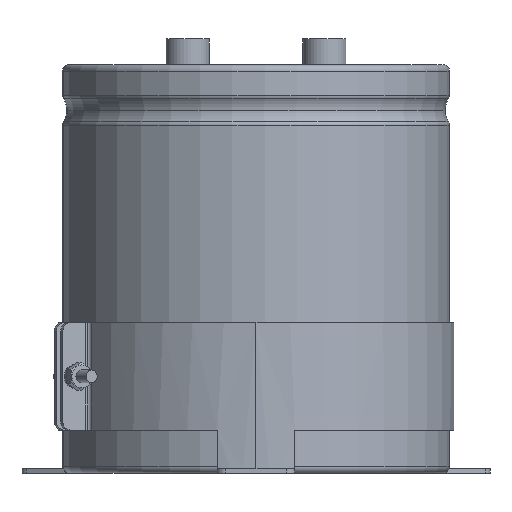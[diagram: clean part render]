
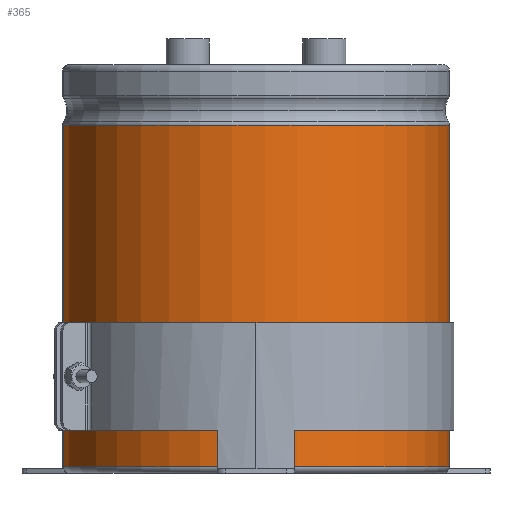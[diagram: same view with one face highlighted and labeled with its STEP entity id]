
A CAD part, left-side view. The second image highlights one B-rep face of the part: STEP entity #365.
In plain terms, the highlighted cylindrical face has radius 45 mm (diameter 90 mm), a partial arc.
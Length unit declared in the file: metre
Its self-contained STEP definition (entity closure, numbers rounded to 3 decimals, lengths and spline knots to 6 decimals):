
#365=ADVANCED_FACE('0:237',(#597),#598,.T.);
#597=FACE_OUTER_BOUND('',#1082,.T.);
#598=CYLINDRICAL_SURFACE('',#1083,0.045);
#1082=EDGE_LOOP('',(#2038,#2039,#2040,#2041));
#1083=AXIS2_PLACEMENT_3D('',#2042,#2043,#2044);
#2038=ORIENTED_EDGE('',*,*,#2995,.T.);
#2039=ORIENTED_EDGE('',*,*,#3004,.T.);
#2040=ORIENTED_EDGE('',*,*,#3006,.T.);
#2041=ORIENTED_EDGE('',*,*,#3007,.F.);
#2042=CARTESIAN_POINT('',(0.0,0.0,0.0));
#2043=DIRECTION('',(-0.0,0.0,1.0));
#2044=DIRECTION('',(0.0,1.0,0.0));
#2995=EDGE_CURVE('',#5626,#5634,#5635,.T.);
#3004=EDGE_CURVE('0:309',#5634,#5645,#5647,.T.);
#3006=EDGE_CURVE('0:312',#5645,#5649,#5650,.T.);
#3007=EDGE_CURVE('0:315',#5626,#5649,#5651,.T.);
#5626=VERTEX_POINT('',#6662);
#5634=VERTEX_POINT('',#6670);
#5635=LINE('',#6671,#6672);
#5645=VERTEX_POINT('',#6683);
#5647=CIRCLE('',#6685,0.045);
#5649=VERTEX_POINT('',#6687);
#5650=LINE('',#6688,#6689);
#5651=CIRCLE('',#6690,0.045);
#6662=CARTESIAN_POINT('',(0.,-0.045,0.0015));
#6670=CARTESIAN_POINT('',(0.,-0.045,0.0809));
#6671=CARTESIAN_POINT('',(0.,-0.045,0.0412));
#6672=VECTOR('',#8209,1.0);
#6683=CARTESIAN_POINT('',(-0.004,0.044822,0.0809));
#6685=AXIS2_PLACEMENT_3D('',#8226,#8227,#8228);
#6687=CARTESIAN_POINT('',(-0.004,0.044822,0.0015));
#6688=CARTESIAN_POINT('',(-0.004,0.044822,0.0809));
#6689=VECTOR('',#8229,0.001);
#6690=AXIS2_PLACEMENT_3D('',#8230,#8231,#8232);
#8209=DIRECTION('',(0.0,0.0,1.0));
#8226=CARTESIAN_POINT('',(0.0,0.0,0.0809));
#8227=DIRECTION('',(0.0,0.0,-1.0));
#8228=DIRECTION('',(0.0,1.0,0.0));
#8229=DIRECTION('',(0.0,0.0,-1.0));
#8230=CARTESIAN_POINT('',(0.0,0.0,0.0015));
#8231=DIRECTION('',(0.0,0.0,-1.0));
#8232=DIRECTION('',(0.0,1.0,0.0));
